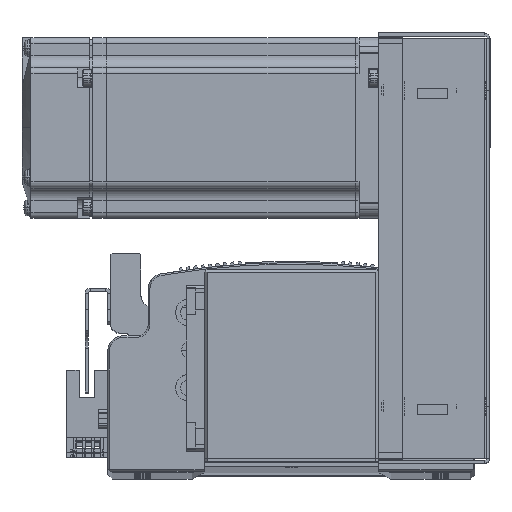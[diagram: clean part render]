
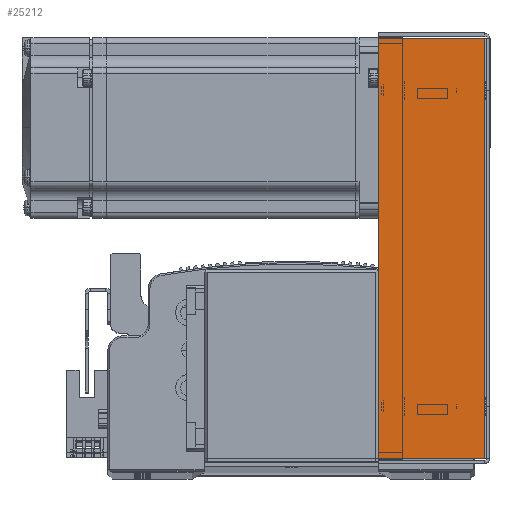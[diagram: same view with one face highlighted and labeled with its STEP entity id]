
A CAD part, top view. The second image highlights one B-rep face of the part: STEP entity #25212.
In plain terms, the highlighted planar face has unit normal (0, 0, 1) as drawn and (0, 0, -1) by its records, which use the part's own axes.
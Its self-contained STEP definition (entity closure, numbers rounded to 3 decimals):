
#266 = ORIENTED_EDGE ( 'NONE', *, *, #77828, .T. ) ;
#268 = ORIENTED_EDGE ( 'NONE', *, *, #77933, .F. ) ;
#269 = ORIENTED_EDGE ( 'NONE', *, *, #77752, .T. ) ;
#274 = ORIENTED_EDGE ( 'NONE', *, *, #77774, .F. ) ;
#8491 = VERTEX_POINT ( 'NONE', #93829 ) ;
#8548 = VERTEX_POINT ( 'NONE', #94028 ) ;
#8558 = VERTEX_POINT ( 'NONE', #94061 ) ;
#8683 = VERTEX_POINT ( 'NONE', #94095 ) ;
#11959 = EDGE_LOOP ( 'NONE', ( #274, #266, #269, #268 ) ) ;
#18690 = VECTOR ( 'NONE', #39061, 1000. ) ;
#18696 = VECTOR ( 'NONE', #68791, 1000. ) ;
#18715 = LINE ( 'NONE', #68800, #18696 ) ;
#18735 = LINE ( 'NONE', #39003, #18690 ) ;
#18796 = VECTOR ( 'NONE', #68997, 1000. ) ;
#18860 = LINE ( 'NONE', #68979, #18796 ) ;
#19515 = LINE ( 'NONE', #38879, #19516 ) ;
#19516 = VECTOR ( 'NONE', #39129, 1000. ) ;
#25212 = ADVANCED_FACE ( 'NONE', ( #31471 ), #48717, .F. ) ;
#31471 = FACE_OUTER_BOUND ( 'NONE', #11959, .T. ) ;
#38879 = CARTESIAN_POINT ( 'NONE',  ( 0., 36., -33.5 ) ) ;
#39003 = CARTESIAN_POINT ( 'NONE',  ( 71.5, 0.737, -33.5 ) ) ;
#39061 = DIRECTION ( 'NONE',  ( 1., 0., 0. ) ) ;
#39129 = DIRECTION ( 'NONE',  ( 1., 0., 0. ) ) ;
#48578 = DIRECTION ( 'NONE',  ( 0., 0., 1. ) ) ;
#48588 = DIRECTION ( 'NONE',  ( 0., -1., 0. ) ) ;
#48717 = PLANE ( 'NONE',  #81525 ) ;
#48768 = CARTESIAN_POINT ( 'NONE',  ( 0., 0., -33.5 ) ) ;
#68791 = DIRECTION ( 'NONE',  ( 0., 1., 0. ) ) ;
#68800 = CARTESIAN_POINT ( 'NONE',  ( -69.793, 0., -33.5 ) ) ;
#68979 = CARTESIAN_POINT ( 'NONE',  ( 69.793, 0., -33.5 ) ) ;
#68997 = DIRECTION ( 'NONE',  ( 0., 1., 0. ) ) ;
#77752 = EDGE_CURVE ( 'NONE', #8548, #8683, #19515, .T. ) ;
#77774 = EDGE_CURVE ( 'NONE', #8491, #8558, #18735, .T. ) ;
#77828 = EDGE_CURVE ( 'NONE', #8491, #8548, #18715, .T. ) ;
#77933 = EDGE_CURVE ( 'NONE', #8558, #8683, #18860, .T. ) ;
#81525 = AXIS2_PLACEMENT_3D ( 'NONE', #48768, #48578, #48588 ) ;
#93829 = CARTESIAN_POINT ( 'NONE',  ( -69.793, 0.737, -33.5 ) ) ;
#94028 = CARTESIAN_POINT ( 'NONE',  ( -69.793, 36., -33.5 ) ) ;
#94061 = CARTESIAN_POINT ( 'NONE',  ( 69.793, 0.737, -33.5 ) ) ;
#94095 = CARTESIAN_POINT ( 'NONE',  ( 69.793, 36., -33.5 ) ) ;
